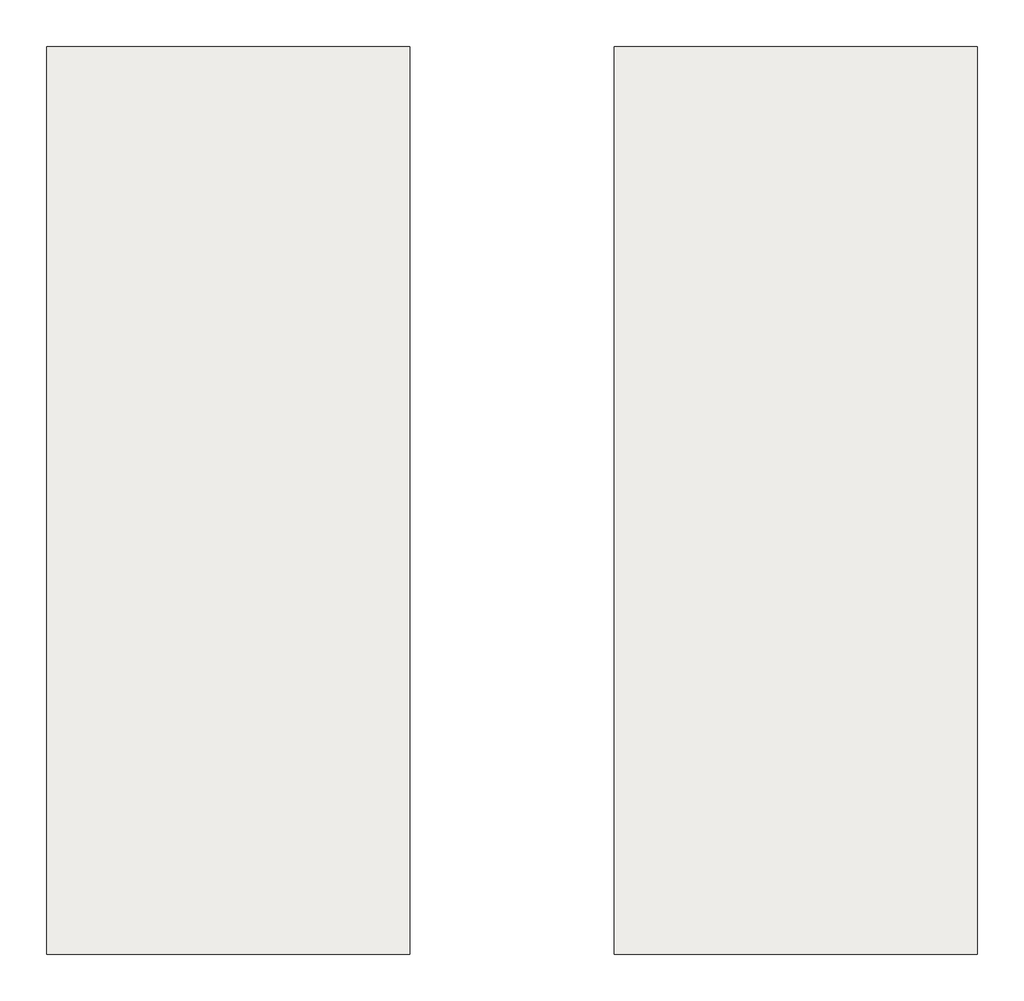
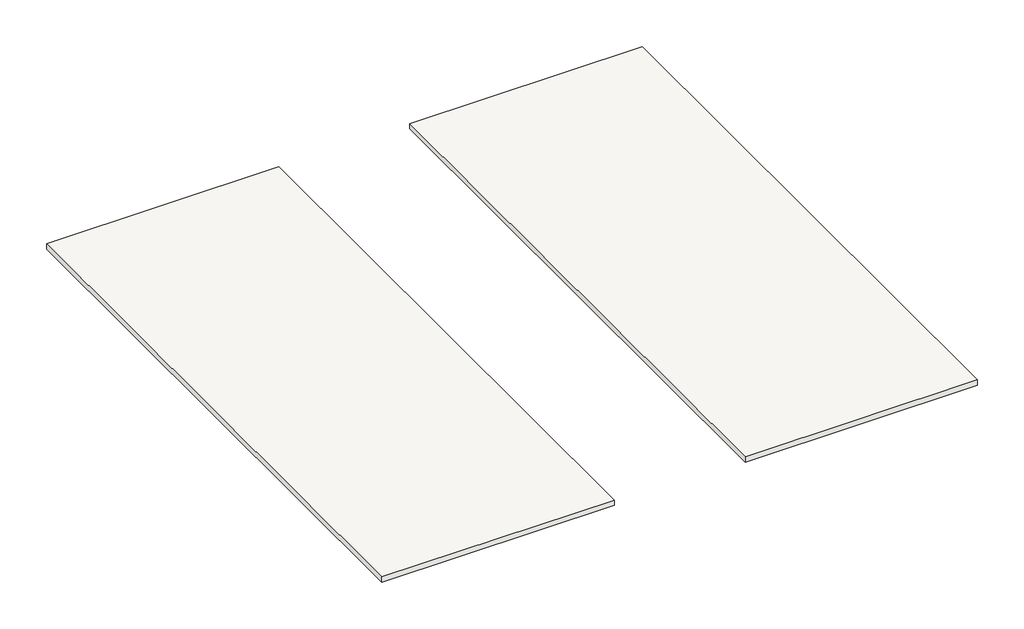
# One storey: 2 roofs.
"""IFC4 building model written with IfcOpenShell, lengths in millimetres."""

from ifc_helpers import new_model, si_unit, frame, origin, place, context, project, spatial, polyline, outline, extrude, element, save

model = new_model("IFC4")

# Units and contexts
model_context = context("Model", 3, world=origin())
ifc_project = project(units=[si_unit("LENGTHUNIT", "METRE", prefix="MILLI")], contexts=[model_context])

# Site, building, storey
site = spatial("IfcSite", under=ifc_project)
building = spatial("IfcBuilding", under=site)
storey = spatial("IfcBuildingStorey", under=building, Name="RENDERED VIEW", Elevation=3048.0)

# Roofs
placement = place(None, origin())
element("IfcRoof", 1, ObjectType="Field Lok FLS137", at=placement, inside=storey, context=model_context, shape_type="SweptSolid", body=[
    extrude(outline(polyline([(-54112.7382533, 26604.8089762), (-51674.3382533, 26604.8089762), (-51674.3382533, 20508.8089762), (-54112.7382533, 20508.8089762), (-54112.7382533, 26604.8089762)])), frame((0.0, 0.0, 3048.0), z_axis=(0.0, 0.0, 1.0), x_axis=(1.0, 0.0, 0.0)), (0.0, 0.0, 1.0), 60.325),
])
element("IfcRoof", 2, ObjectType="Field Lok FLS180", at=placement, inside=storey, context=model_context, shape_type="SweptSolid", body=[
    extrude(outline(polyline([(-50302.7382533, 26604.8089762), (-47864.3382533, 26604.8089762), (-47864.3382533, 20508.8089762), (-50302.7382533, 20508.8089762), (-50302.7382533, 26604.8089762)])), frame((0.0, 0.0, 3048.0), z_axis=(0.0, 0.0, 1.0), x_axis=(1.0, 0.0, 0.0)), (0.0, 0.0, 1.0), 60.325),
])

save(model, "model.ifc")
